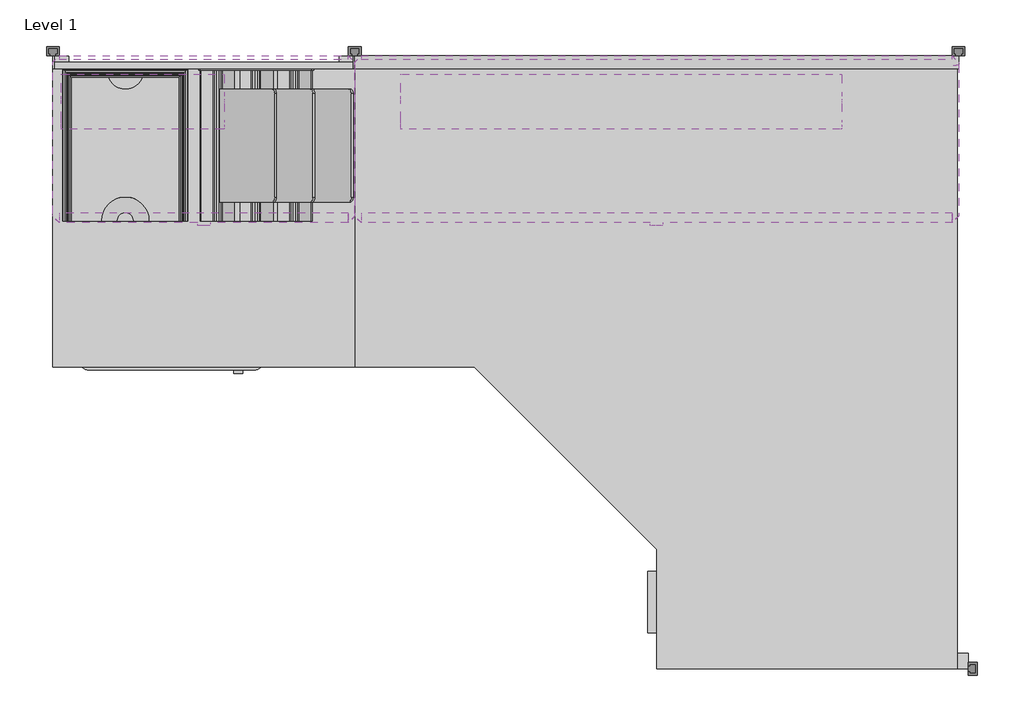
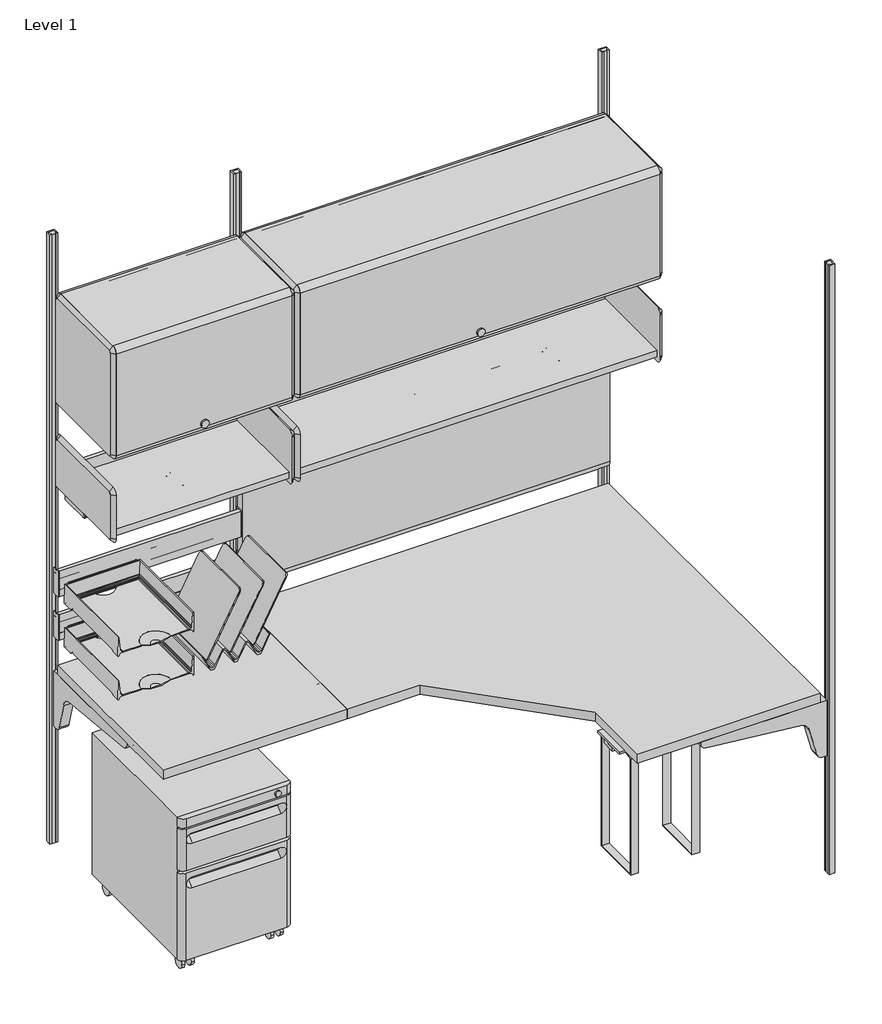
# One storey, incomplete: 18 furniture elements, 2 light fixtures.
"""IFC4 building model written with IfcOpenShell, lengths in millimetres."""

from ifc_helpers import new_model, si_unit, origin, place, context, project, spatial, transform, mapped, element, save
from components import furniture_84c54a78, furniture_75fc3fe0, furniture_a2665887, furniture_baef4f76, furniture_6a59721d, furniture_2520e590, furniture_cb78dd66, furniture_f92ff600, furniture_f44b4fd4, furniture_33cd207f, furniture_fea97cc0, furniture_db9437f5, furniture_d4c6b201, furniture_ea425779, vertical_a4187a12, light_fixture_ffa00119, light_fixture_d51b2d7c

model = new_model("IFC4")

# Units and contexts
model_context = context("Model", 3, world=origin())
ifc_project = project(units=[si_unit("LENGTHUNIT", "METRE", prefix="MILLI")], contexts=[model_context])

# Site, building, storey
site = spatial("IfcSite", under=ifc_project)
building = spatial("IfcBuilding", under=site)
storey = spatial("IfcBuildingStorey", under=building, Name="Level 1", Elevation=0.0)

# Furniture
placement = place(None, origin())
furniture_shape = furniture_84c54a78(model_context)
element("IfcFurniture", 1, ObjectType="HermanMiller_QuadrantFiling_G5111_MobilePedestal : 21-1/2\"H x 20\"D x 15\"W BF", at=placement, inside=storey, context=model_context, shape_type="MappedRepresentation", body=[
    mapped(furniture_shape, transform((239.44326, -390.382763, 0.0), x_axis=(1.0, 0.0, 0.0), y_axis=(0.0, 1.0, 0.0), z_axis=(0.0, 0.0, 1.0))),
])
furniture_2_shape = furniture_75fc3fe0(model_context)
element("IfcFurniture", 2, ObjectType="HermanMiller_ThrivePortfolio_Y7218_DiagonalTray : 8 1/2\"H x 12\"D x 13\"W", at=placement, inside=storey, context=model_context, shape_type="MappedRepresentation", body=[
    mapped(furniture_2_shape, transform((410.816817, -198.47052, 0.0), x_axis=(1.0, 0.0, 0.0), y_axis=(0.0, 1.0, 0.0), z_axis=(0.0, 0.0, 1.0))),
])
furniture_3_shape = furniture_a2665887(model_context)
element("IfcFurniture", 3, ObjectType="HermanMiller_ThrivePortfolio_Y7216_PaperTray : 3\"H x 12\"D x 10\"W", at=placement, inside=storey, context=model_context, shape_type="MappedRepresentation", body=[
    mapped(furniture_3_shape, transform((146.2024, -198.47052, 0.0), x_axis=(1.0, 0.0, 0.0), y_axis=(0.0, 1.0, 0.0), z_axis=(0.0, 0.0, 1.0))),
])
furniture_4_shape = furniture_baef4f76(model_context)
element("IfcFurniture", 4, ObjectType="HermanMiller_ThrivePortfolio_Y7216_PaperTray : 3\"H x 12\"D x 10\"W", at=placement, inside=storey, context=model_context, shape_type="MappedRepresentation", body=[
    mapped(furniture_4_shape, transform((146.2024, -198.47052, 0.0), x_axis=(1.0, 0.0, 0.0), y_axis=(0.0, 1.0, 0.0), z_axis=(0.0, 0.0, 1.0))),
])
furniture_5_shape = furniture_6a59721d(model_context)
element("IfcFurniture", 5, ObjectType="HermanMiller_ActionOffice_A3610_ToolBar : 4\"H x 24\"W", at=placement, inside=storey, context=model_context, shape_type="MappedRepresentation", body=[
    mapped(furniture_5_shape, transform((304.8, -31.7499996, 0.0), x_axis=(1.0, 0.0, 0.0), y_axis=(0.0, 1.0, 0.0), z_axis=(0.0, 0.0, 1.0))),
])
furniture_6_shape = furniture_2520e590(model_context)
element("IfcFurniture", 6, ObjectType="HermanMiller_ActionOffice_A3610_ToolBar : 4\"H x 24\"W", at=placement, inside=storey, context=model_context, shape_type="MappedRepresentation", body=[
    mapped(furniture_6_shape, transform((304.8, -31.7499996, 0.0), x_axis=(1.0, 0.0, 0.0), y_axis=(0.0, 1.0, 0.0), z_axis=(0.0, 0.0, 1.0))),
])
furniture_7_shape = furniture_cb78dd66(model_context)
element("IfcFurniture", 7, ObjectType="HermanMiller_ActionOffice_A3410_B-StyleTackboard : 16\"H x 48\"W", at=placement, inside=storey, context=model_context, shape_type="MappedRepresentation", body=[
    mapped(furniture_7_shape, transform((1219.2, -31.75, 0.0), x_axis=(1.0, 0.0, 0.0), y_axis=(0.0, 1.0, 0.0), z_axis=(0.0, 0.0, 1.0))),
])
furniture_8_shape = furniture_f92ff600(model_context)
element("IfcFurniture", 8, ObjectType="HermanMiller_ActionOffice_A3220_B-StyleStorageDisplay : Shelf 13\"D x 48\"W", at=placement, inside=storey, context=model_context, shape_type="MappedRepresentation", body=[
    mapped(furniture_8_shape, transform((1343.1420045, -200.025, 0.0), x_axis=(1.0, 0.0, 0.0), y_axis=(0.0, 1.0, 0.0), z_axis=(0.0, 0.0, 1.0))),
])
furniture_9_shape = furniture_f44b4fd4(model_context)
element("IfcFurniture", 9, ObjectType="HermanMiller_ActionOffice_A3220_B-StyleStorageDisplay : Shelf 13\"D x 24\"W", at=placement, inside=storey, context=model_context, shape_type="MappedRepresentation", body=[
    mapped(furniture_9_shape, transform((428.7420045, -200.025, 0.0), x_axis=(1.0, 0.0, 0.0), y_axis=(0.0, 1.0, 0.0), z_axis=(0.0, 0.0, 1.0))),
])
furniture_10_shape = furniture_33cd207f(model_context)
element("IfcFurniture", 10, ObjectType="HermanMiller_ActionOffice_A3352_B-StyleFlipperDoorUnit : 15 1/2\"H x 13\"D x 48\"W", at=placement, inside=storey, context=model_context, shape_type="MappedRepresentation", body=[
    mapped(furniture_10_shape, transform((1219.2, -200.025, 0.0), x_axis=(1.0, 0.0, 0.0), y_axis=(0.0, 1.0, 0.0), z_axis=(0.0, 0.0, 1.0))),
])
furniture_11_shape = furniture_fea97cc0(model_context)
element("IfcFurniture", 11, ObjectType="HermanMiller_ActionOffice_A3352_B-StyleFlipperDoorUnit : 15 1/2\"H x 13\"D x 24\"W", at=placement, inside=storey, context=model_context, shape_type="MappedRepresentation", body=[
    mapped(furniture_11_shape, transform((304.8, -200.025, 0.0), x_axis=(1.0, 0.0, 0.0), y_axis=(0.0, 1.0, 0.0), z_axis=(0.0, 0.0, 1.0))),
])
furniture_12_shape = furniture_db9437f5(model_context)
element("IfcFurniture", 12, ObjectType="HermanMiller_ActionOffice_A2332_Sq-EdgeCornerWorkSurface : 24\"D x 48\"W", at=placement, inside=storey, context=model_context, shape_type="MappedRepresentation", body=[
    mapped(furniture_12_shape, transform((1063.625, -781.05, 0.0), x_axis=(0.0, -1.0, 0.0), y_axis=(1.0, 0.0, 0.0), z_axis=(0.0, 0.0, 1.0))),
])
furniture_13_shape = furniture_d4c6b201(model_context)
element("IfcFurniture", 13, ObjectType="HermanMiller_ActionOffice_A2310_Sq-EdgeRectangularWorkSurface : 24\"D x 24\"W", at=placement, inside=storey, context=model_context, shape_type="MappedRepresentation", body=[
    mapped(furniture_13_shape, transform((304.8, -333.375, 0.0), x_axis=(1.0, 0.0, 0.0), y_axis=(0.0, 1.0, 0.0), z_axis=(0.0, 0.0, 1.0))),
])
furniture_14_shape = furniture_ea425779(model_context)
element("IfcFurniture", 14, ObjectType="HermanMiller_ActionOffice_AO213_WallStrip : 84\"H", at=placement, inside=storey, context=model_context, shape_type="MappedRepresentation", body=[
    mapped(furniture_14_shape, transform((0.0, 0.0, 0.0), x_axis=(1.0, 0.0, 0.0), y_axis=(0.0, 1.0, 0.0), z_axis=(0.0, 0.0, 1.0))),
])
element("IfcFurniture", 15, ObjectType="HermanMiller_ActionOffice_AO213_WallStrip : 84\"H", at=placement, inside=storey, context=model_context, shape_type="MappedRepresentation", body=[
    mapped(furniture_14_shape, transform((1866.9, -1257.3, 0.0), x_axis=(0.0, -1.0, 0.0), y_axis=(1.0, 0.0, 0.0), z_axis=(0.0, 0.0, 1.0))),
])
element("IfcFurniture", 16, ObjectType="HermanMiller_ActionOffice_AO213_WallStrip : 84\"H", at=placement, inside=storey, context=model_context, shape_type="MappedRepresentation", body=[
    mapped(furniture_14_shape, transform((1828.8, 0.0, 0.0), x_axis=(1.0, 0.0, 0.0), y_axis=(0.0, 1.0, 0.0), z_axis=(0.0, 0.0, 1.0))),
])
element("IfcFurniture", 17, ObjectType="HermanMiller_ActionOffice_AO213_WallStrip : 84\"H", at=placement, inside=storey, context=model_context, shape_type="MappedRepresentation", body=[
    mapped(furniture_14_shape, transform((609.6, 0.0, 0.0), x_axis=(1.0, 0.0, 0.0), y_axis=(0.0, 1.0, 0.0), z_axis=(0.0, 0.0, 1.0))),
])
vertical_shape = vertical_a4187a12(model_context)
element("IfcFurniture", 18, ObjectType="HermanMiller_ThrivePortfolio_Y7813_CPUHolder : Vertical", at=placement, inside=storey, context=model_context, shape_type="MappedRepresentation", body=[
    mapped(vertical_shape, transform((1340.5729671, -1122.3625, 0.0), x_axis=(0.0, -1.0, 0.0), y_axis=(1.0, 0.0, 0.0), z_axis=(0.0, 0.0, 1.0))),
])

# Light fixtures
light_fixture_shape = light_fixture_ffa00119(model_context)
element("IfcLightFixture", 19, ObjectType="HermanMiller_SupplementalProducts_G6136_UtilityTaskLight : AO Etho Canvas 24W", at=placement, inside=storey, context=model_context, shape_type="MappedRepresentation", body=[
    mapped(light_fixture_shape, transform((181.229, -111.125, 0.0), x_axis=(1.0, 0.0, 0.0), y_axis=(0.0, 1.0, 0.0), z_axis=(0.0, 0.0, 1.0))),
])
light_fixture_2_shape = light_fixture_d51b2d7c(model_context)
element("IfcLightFixture", 20, ObjectType="HermanMiller_SupplementalProducts_G6136_UtilityTaskLight : AO Etho Canvas 42W", at=placement, inside=storey, context=model_context, shape_type="MappedRepresentation", body=[
    mapped(light_fixture_2_shape, transform((1147.318, -111.125, 0.0), x_axis=(1.0, 0.0, 0.0), y_axis=(0.0, 1.0, 0.0), z_axis=(0.0, 0.0, 1.0))),
])

save(model, "model.ifc")
